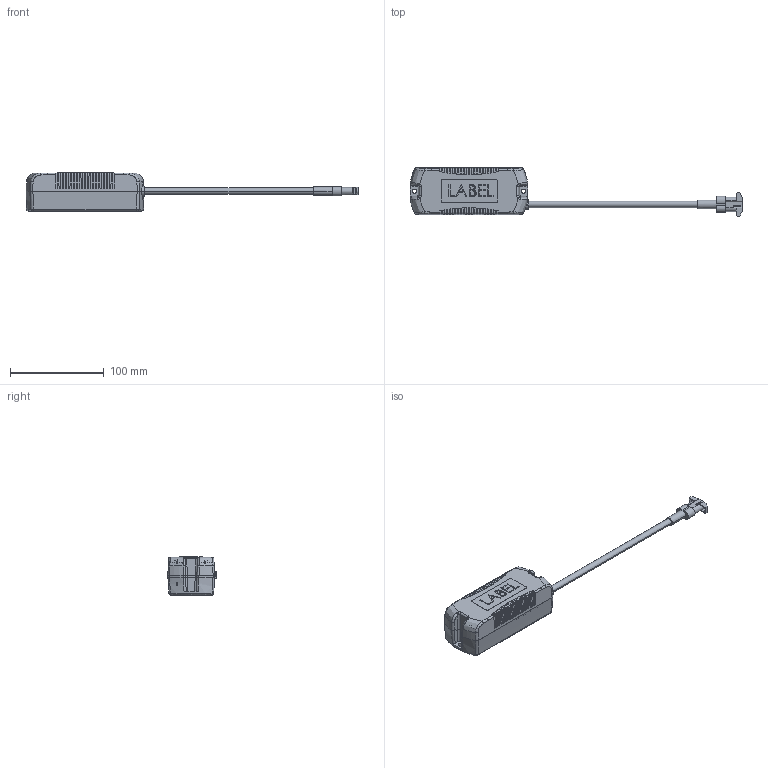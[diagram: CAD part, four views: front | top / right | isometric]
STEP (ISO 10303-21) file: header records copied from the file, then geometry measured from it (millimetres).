
FILE_DESCRIPTION((''),'2;1');
FILE_NAME('15013966Z_DMEC28001896-4AH_PACK','2020-06-08T10:10:54',('Juergen.Hrach'),(''),'CREO PARAMETRIC BY PTC INC, 2019164','CREO PARAMETRIC BY PTC INC, 2019164','');
FILE_SCHEMA(('CONFIG_CONTROL_DESIGN'));
Length unit declared in the file: millimetre
Products named in the file (1): 15013966Z_DMEC28001896-4AH_PACK
Bounding box: 353.88 x 51.62 x 40.7 mm (x, y, z)
Volume: 124207 mm3; surface area: 89958.2 mm2
Topology: 2 solids, 3 shells, 1134 faces, 3281 edges, 2170 vertices
Faces by surface type: plane 591, cylinder 419, bspline 80, torus 24, cone 20
Entity records: 42260 total; most frequent: CARTESIAN_POINT 13517, ORIENTED_EDGE 6546, DIRECTION 5309, EDGE_CURVE 3273, VERTEX_POINT 2167, VECTOR 1791, LINE 1791, AXIS2_PLACEMENT_3D 1759
